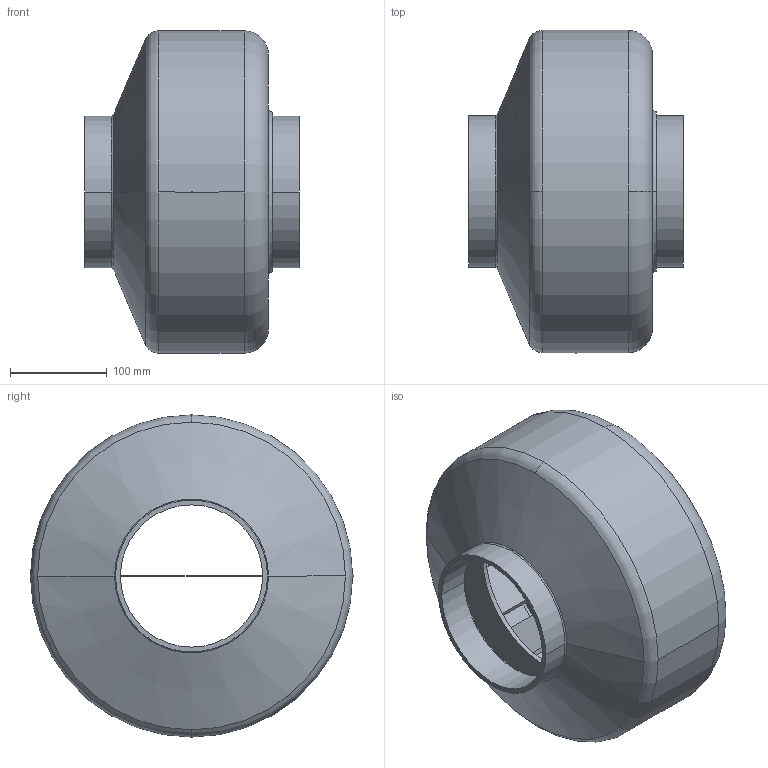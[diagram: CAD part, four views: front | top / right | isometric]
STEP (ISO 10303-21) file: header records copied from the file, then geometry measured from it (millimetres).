
FILE_DESCRIPTION(('STEP AP214'),'1');
FILE_NAME('5145880300.stp','2019-05-13T14:54:53',('TraceParts'),('TraceParts S.A.'),'Spatial InterOp 3D',' ',' ');
FILE_SCHEMA(('AUTOMOTIVE_DESIGN { 1 0 10303 214 1 1 1 1 }'));
Length unit declared in the file: millimetre
Products named in the file (1): 5145880300
Bounding box: 222 x 334 x 333 mm (x, y, z)
Volume: 2394407.4 mm3; surface area: 909099.9 mm2
Topology: 1 solids, 1 shells, 107 faces, 298 edges, 199 vertices
Faces by surface type: plane 59, cylinder 28, torus 16, cone 4
Entity records: 4805 total; most frequent: CARTESIAN_POINT 1022, DIRECTION 615, ORIENTED_EDGE 596, EDGE_CURVE 298, AXIS2_PLACEMENT_3D 218, VERTEX_POINT 199, LINE 179, VECTOR 179
